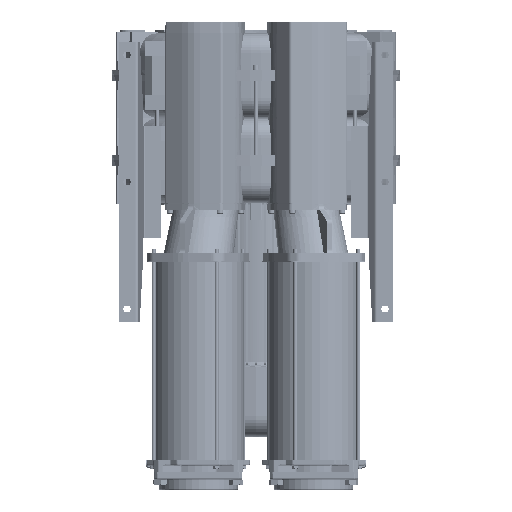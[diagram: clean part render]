
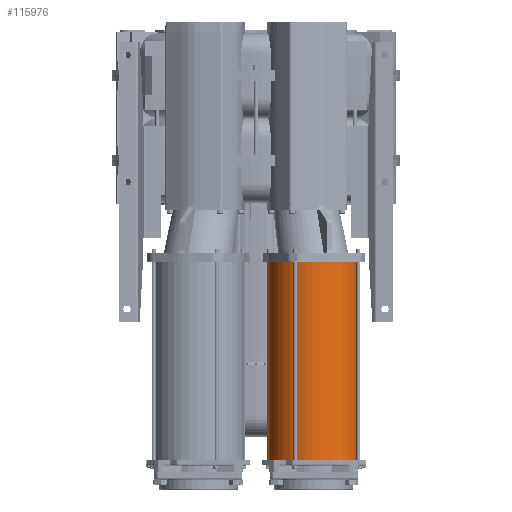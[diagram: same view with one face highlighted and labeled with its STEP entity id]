
A CAD part, front view. The second image highlights one B-rep face of the part: STEP entity #115976.
In plain terms, the highlighted cylindrical face has radius 90 mm (diameter 180 mm), a full revolution.
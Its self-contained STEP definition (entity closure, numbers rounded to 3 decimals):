
#6683 = AXIS2_PLACEMENT_3D ( 'NONE', #192832, #118114, #89572 ) ;
#12161 = DIRECTION ( 'NONE',  ( 0.665, 0.747, 0. ) ) ;
#15252 = CARTESIAN_POINT ( 'NONE',  ( 173.658, -207.494, -347. ) ) ;
#24874 = ORIENTED_EDGE ( 'NONE', *, *, #99444, .T. ) ;
#25035 = FACE_OUTER_BOUND ( 'NONE', #51492, .T. ) ;
#29651 = EDGE_CURVE ( 'NONE', #69422, #69422, #135413, .T. ) ;
#38690 = ORIENTED_EDGE ( 'NONE', *, *, #29651, .T. ) ;
#41741 = FACE_OUTER_BOUND ( 'NONE', #141097, .T. ) ;
#51492 = EDGE_LOOP ( 'NONE', ( #24874 ) ) ;
#58475 = CARTESIAN_POINT ( 'NONE',  ( 113.777, -274.681, -347.5 ) ) ;
#59419 = DIRECTION ( 'NONE',  ( -0.665, -0.747, 0. ) ) ;
#69422 = VERTEX_POINT ( 'NONE', #15252 ) ;
#88282 = CARTESIAN_POINT ( 'NONE',  ( 173.658, -207.494, 42. ) ) ;
#89572 = DIRECTION ( 'NONE',  ( 0.665, 0.747, 0. ) ) ;
#99444 = EDGE_CURVE ( 'NONE', #150273, #150273, #158528, .T. ) ;
#101670 = DIRECTION ( 'NONE',  ( 0., 0., 1. ) ) ;
#115976 = ADVANCED_FACE ( 'NONE', ( #25035, #41741 ), #163632, .T. ) ;
#118114 = DIRECTION ( 'NONE',  ( 0., 0., 1. ) ) ;
#135413 = CIRCLE ( 'NONE', #6683, 90. ) ;
#141097 = EDGE_LOOP ( 'NONE', ( #38690 ) ) ;
#150273 = VERTEX_POINT ( 'NONE', #88282 ) ;
#158528 = CIRCLE ( 'NONE', #177309, 90. ) ;
#159659 = AXIS2_PLACEMENT_3D ( 'NONE', #58475, #101670, #59419 ) ;
#163632 = CYLINDRICAL_SURFACE ( 'NONE', #159659, 90. ) ;
#177309 = AXIS2_PLACEMENT_3D ( 'NONE', #180270, #192089, #12161 ) ;
#180270 = CARTESIAN_POINT ( 'NONE',  ( 113.777, -274.681, 42. ) ) ;
#192089 = DIRECTION ( 'NONE',  ( 0., 0., -1. ) ) ;
#192832 = CARTESIAN_POINT ( 'NONE',  ( 113.777, -274.681, -347. ) ) ;
